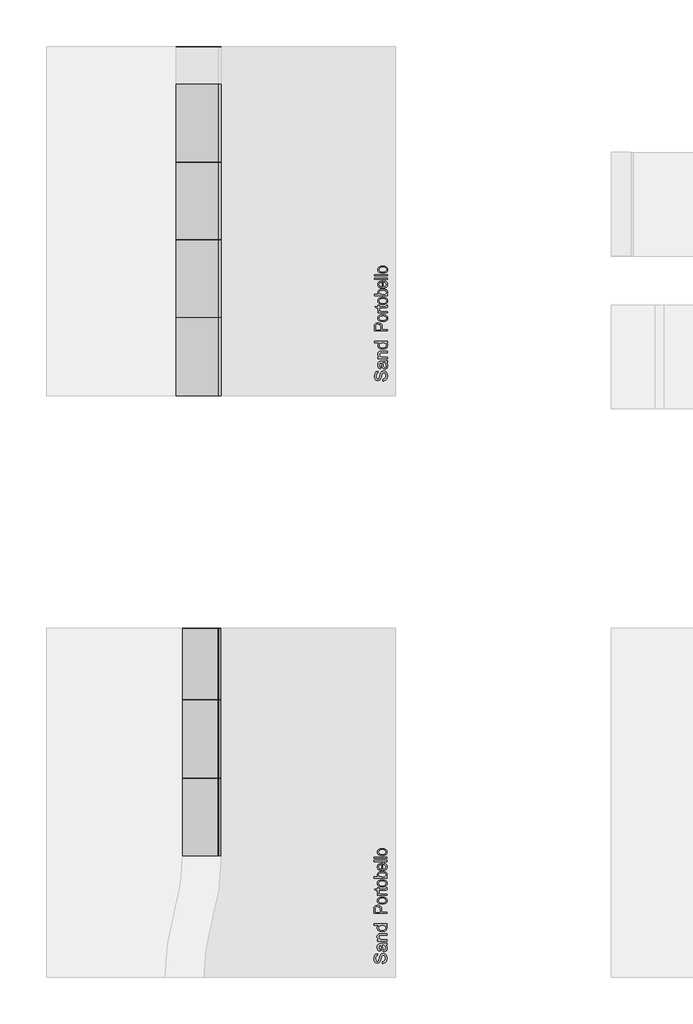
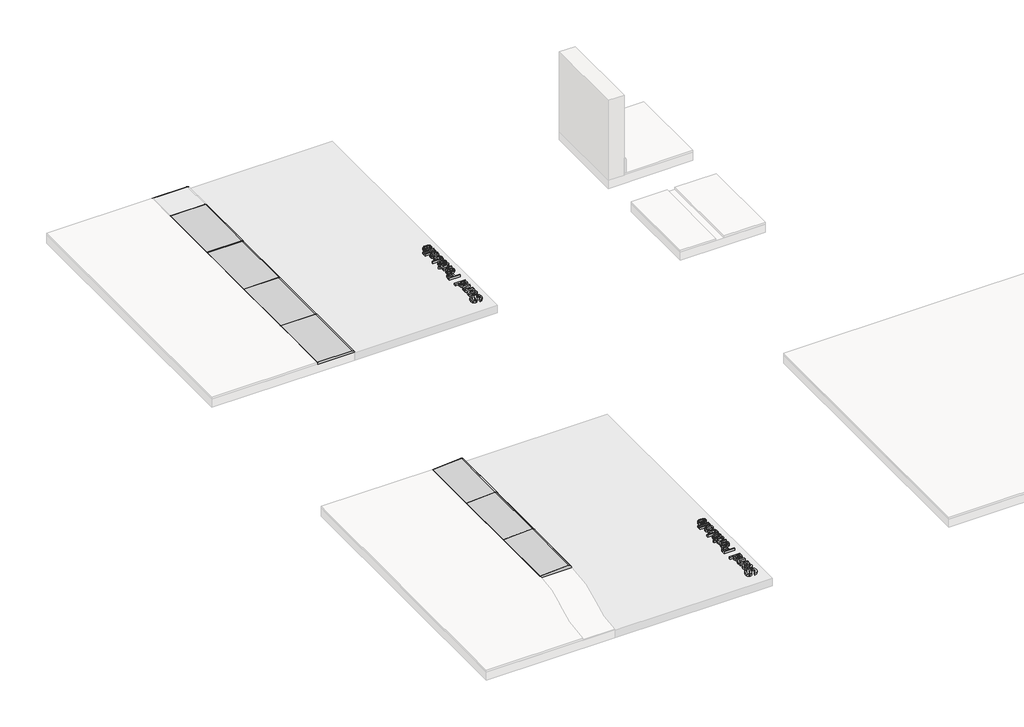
# One storey, part 3 of 6: 13 proxies.
"""IFC4 building model written with IfcOpenShell, lengths in millimetres."""

from ifc_helpers import new_model, si_unit, frame, origin, place, context, project, spatial, polyline, outline, extrude, transform, mapped, element, save
from components import sand_0a74e251, sand_1f769084, sand_3f98117f, sand_cc441fb2, sand_d70d5525

model = new_model("IFC4")

# Units and contexts
model_context = context("Model", 3, world=origin())
ifc_project = project(units=[si_unit("LENGTHUNIT", "METRE", prefix="MILLI")], contexts=[model_context])

# Site, building, storey
site = spatial("IfcSite", under=ifc_project)
building = spatial("IfcBuilding", under=site)
storey = spatial("IfcBuildingStorey", under=building, Name="PORTOBELLO - SHOWROOM", Elevation=0.0)

# Proxies
placement = place(None, origin())
element("IfcBuildingElementProxy", 1, Name="10mm Arial", ObjectType="10mm Arial", at=placement, inside=storey, context=model_context, shape_type="SweptSolid", body=[
    extrude(outline(polyline([(-9817.0956686, -2379.5200678), (-9817.0956686, -2366.963029), (-9804.5263671, -2362.9163271), (-9796.580116, -2353.0325642), (-9793.5512209, -2337.9739278), (-9795.844352, -2324.8528033), (-9802.1473968, -2316.3792547), (-9810.5718945, -2313.5956143), (-9818.407781, -2315.6802789), (-9824.1099519, -2324.2151412), (-9828.9046806, -2342.4988764), (-9835.0973609, -2362.1805631), (-9844.4415635, -2372.8614037), (-9856.9250259, -2376.3808081), (-9871.1375337, -2372.0275378), (-9881.1684494, -2359.3110835), (-9884.589752, -2340.6962546), (-9881.0090339, -2320.8306268), (-9870.4876088, -2307.586875), (-9854.7667849, -2302.6082054), (-9854.7667849, -2315.1652441), (-9862.2593148, -2317.470638), (-9867.6671802, -2322.2776294), (-9872.0327132, -2340.2057453), (-9867.7162311, -2358.1829121), (-9857.2929079, -2363.8237693), (-9848.5863674, -2359.8261183), (-9841.572084, -2339.3228285), (-9835.2690391, -2317.102756), (-9825.0909706, -2304.9503874), (-9810.8907256, -2301.0385755), (-9795.8688775, -2305.5389986), (-9784.905994, -2318.4884448), (-9780.9941821, -2337.4834185), (-9785.2125623, -2359.9119575), (-9797.9167539, -2374.0999397), (-9817.0956686, -2379.5200678)])), frame((0.0, 0.0, -5.0), z_axis=(0.0, 0.0, 1.0), x_axis=(1.0, 0.0, 0.0)), (0.0, 0.0, 1.0), 20.0),
    extrude(outline(polyline([(-9791.981591, -2236.6837518), (-9783.4712542, -2248.8606459), (-9780.9941821, -2262.3128641), (-9782.4841042, -2272.8066981), (-9786.9538704, -2280.5475484), (-9793.7412932, -2285.3208173), (-9802.184185, -2286.9119069), (-9812.1169989, -2284.5084112), (-9819.327486, -2278.1931036), (-9823.4477644, -2269.4007239), (-9825.3362253, -2258.5359423), (-9829.6527073, -2236.7573282), (-9832.4486105, -2236.6837518), (-9841.7192368, -2240.1418426), (-9845.3490058, -2254.0232565), (-9842.9332474, -2266.7274481), (-9834.3615969, -2272.7852383), (-9835.9312267, -2285.342277), (-9848.1939599, -2279.9098862), (-9855.3799215, -2268.9715283), (-9857.9060446, -2252.4045757), (-9855.6742271, -2237.1865239), (-9850.0701581, -2228.5903479), (-9841.5475585, -2224.7398497), (-9830.5601496, -2224.126713), (-9814.9374275, -2224.126713), (-9793.1220252, -2223.4890509), (-9782.563812, -2220.9874534), (-9782.563812, -2233.5444921), (-9791.981591, -2236.6837518)]), holes=[polyline([(-9817.0956686, -2236.6837518), (-9813.2451704, -2256.941787), (-9811.2095566, -2267.7452549), (-9807.8986187, -2272.6380855), (-9803.0671018, -2274.3548681), (-9796.2735476, -2270.6147345), (-9793.5512209, -2259.6395883), (-9796.5555905, -2246.9353967), (-9803.8273913, -2238.743891), (-9813.539476, -2236.7573282), (-9817.0956686, -2236.6837518)])]), frame((0.0, 0.0, -5.0), z_axis=(0.0, 0.0, 1.0), x_axis=(1.0, 0.0, 0.0)), (0.0, 0.0, 1.0), 20.0),
    extrude(outline(polyline([(-9782.563812, -2206.8607847), (-9856.3364147, -2206.8607847), (-9856.3364147, -2194.303746), (-9846.0357189, -2194.303746), (-9854.9384631, -2184.7020259), (-9857.9060446, -2171.5931641), (-9855.5148116, -2159.7351012), (-9849.2362922, -2151.6416973), (-9840.0024541, -2147.8770382), (-9827.8623483, -2147.2148506), (-9782.563812, -2147.2148506), (-9782.563812, -2159.7718894), (-9826.1700911, -2159.7718894), (-9837.2801274, -2161.2188919), (-9843.1539766, -2166.3324516), (-9845.3490058, -2174.953153), (-9840.4193871, -2188.5770496), (-9833.276345, -2192.8720719), (-9821.7064562, -2194.303746), (-9782.563812, -2194.303746), (-9782.563812, -2206.8607847)])), frame((0.0, 0.0, -5.0), z_axis=(0.0, 0.0, 1.0), x_axis=(1.0, 0.0, 0.0)), (0.0, 0.0, 1.0), 20.0),
    extrude(outline(polyline([(-9782.563812, -2084.4296567), (-9794.4096122, -2084.4296567), (-9784.3480396, -2092.7376585), (-9780.9941821, -2104.2217081), (-9785.8502244, -2119.7708537), (-9799.4005446, -2130.7582627), (-9819.3765369, -2134.6578118), (-9839.364792, -2131.064831), (-9853.1235786, -2120.2981513), (-9857.9060446, -2104.270759), (-9854.484742, -2092.6947389), (-9845.5942605, -2084.4296567), (-9883.0201221, -2084.4296567), (-9883.0201221, -2071.872618), (-9782.563812, -2071.872618), (-9782.563812, -2084.4296567)]), holes=[polyline([(-9819.4255879, -2122.1007731), (-9808.0672313, -2120.6844274), (-9799.9891558, -2116.4353903), (-9795.1607046, -2110.2611042), (-9793.5512209, -2103.0690112), (-9795.0871282, -2095.8799838), (-9799.6948502, -2089.8620475), (-9807.460226, -2085.7877544), (-9818.4690947, -2084.4296567), (-9830.5049673, -2085.8122799), (-9838.8497572, -2089.9601494), (-9843.7241937, -2096.1313699), (-9845.3490058, -2103.584046), (-9843.788573, -2110.8497154), (-9839.1072746, -2116.8032723), (-9831.0659873, -2120.7763979), (-9819.4255879, -2122.1007731)])]), frame((0.0, 0.0, -5.0), z_axis=(0.0, 0.0, 1.0), x_axis=(1.0, 0.0, 0.0)), (0.0, 0.0, 1.0), 20.0),
])
element("IfcBuildingElementProxy", 2, Name="10mm Arial", ObjectType="10mm Arial", at=placement, inside=storey, context=model_context, shape_type="SweptSolid", body=[
    extrude(outline(polyline([(-9821.2322995, -6881.391208), (-9821.2322995, -6868.8341692), (-9808.662998, -6864.7874673), (-9800.7167469, -6854.9037043), (-9797.6878518, -6839.845068), (-9799.9809829, -6826.7239435), (-9806.2840278, -6818.2503949), (-9814.7085255, -6815.4667545), (-9822.544412, -6817.5514191), (-9828.2465829, -6826.0862814), (-9833.0413116, -6844.3700165), (-9839.2339918, -6864.0517033), (-9848.5781945, -6874.7325439), (-9861.0616569, -6878.2519483), (-9875.2741646, -6873.898678), (-9885.3050804, -6861.1822237), (-9888.7263829, -6842.5673948), (-9885.1456648, -6822.701767), (-9874.6242398, -6809.4580152), (-9858.9034158, -6804.4793455), (-9858.9034158, -6817.0363843), (-9866.3959458, -6819.3417781), (-9871.8038111, -6824.1487695), (-9876.1693441, -6842.0768854), (-9871.8528621, -6860.0540523), (-9861.4295389, -6865.6949095), (-9852.7229983, -6861.6972585), (-9845.7087149, -6841.1939687), (-9839.4056701, -6818.9738961), (-9829.2276016, -6806.8215276), (-9815.0273565, -6802.9097157), (-9800.0055084, -6807.4101388), (-9789.042625, -6820.359585), (-9785.1308131, -6839.3545587), (-9789.3491933, -6861.7830976), (-9802.0533849, -6875.9710799), (-9821.2322995, -6881.391208)])), frame((0.0, 0.0, -5.0), z_axis=(0.0, 0.0, 1.0), x_axis=(1.0, 0.0, 0.0)), (0.0, 0.0, 1.0), 20.0),
    extrude(outline(polyline([(-9796.118222, -6738.554892), (-9787.6078852, -6750.731786), (-9785.1308131, -6764.1840043), (-9786.6207352, -6774.6778382), (-9791.0905014, -6782.4186886), (-9797.8779242, -6787.1919574), (-9806.320816, -6788.7830471), (-9816.2536299, -6786.3795514), (-9823.464117, -6780.0642438), (-9827.5843953, -6771.2718641), (-9829.4728562, -6760.4070825), (-9833.7893383, -6738.6284684), (-9836.5852415, -6738.554892), (-9845.8558677, -6742.0129828), (-9849.4856368, -6755.8943967), (-9847.0698783, -6768.5985883), (-9838.4982278, -6774.6563785), (-9840.0678577, -6787.2134172), (-9852.3305909, -6781.7810264), (-9859.5165525, -6770.8426684), (-9862.0426755, -6754.2757159), (-9859.8108581, -6739.0576641), (-9854.206789, -6730.4614881), (-9845.6841895, -6726.6109899), (-9834.6967806, -6725.9978532), (-9819.0740585, -6725.9978532), (-9797.2586562, -6725.3601911), (-9786.7004429, -6722.8585935), (-9786.7004429, -6735.4156323), (-9796.118222, -6738.554892)]), holes=[polyline([(-9821.2322995, -6738.554892), (-9817.3818013, -6758.8129272), (-9815.3461876, -6769.6163951), (-9812.0352497, -6774.5092257), (-9807.2037328, -6776.2260083), (-9800.4101786, -6772.4858747), (-9797.6878518, -6761.5107285), (-9800.6922215, -6748.8065369), (-9807.9640222, -6740.6150312), (-9817.6761069, -6738.6284684), (-9821.2322995, -6738.554892)])]), frame((0.0, 0.0, -5.0), z_axis=(0.0, 0.0, 1.0), x_axis=(1.0, 0.0, 0.0)), (0.0, 0.0, 1.0), 20.0),
    extrude(outline(polyline([(-9786.7004429, -6708.7319249), (-9860.4730457, -6708.7319249), (-9860.4730457, -6696.1748862), (-9850.1723498, -6696.1748862), (-9859.0750941, -6686.5731661), (-9862.0426755, -6673.4643043), (-9859.6514426, -6661.6062413), (-9853.3729232, -6653.5128374), (-9844.1390851, -6649.7481784), (-9831.9989793, -6649.0859908), (-9786.7004429, -6649.0859908), (-9786.7004429, -6661.6430295), (-9830.3067221, -6661.6430295), (-9841.4167583, -6663.0900321), (-9847.2906075, -6668.2035918), (-9849.4856368, -6676.8242932), (-9844.556018, -6690.4481898), (-9837.412976, -6694.7432121), (-9825.8430872, -6696.1748862), (-9786.7004429, -6696.1748862), (-9786.7004429, -6708.7319249)])), frame((0.0, 0.0, -5.0), z_axis=(0.0, 0.0, 1.0), x_axis=(1.0, 0.0, 0.0)), (0.0, 0.0, 1.0), 20.0),
    extrude(outline(polyline([(-9786.7004429, -6586.3007969), (-9798.5462432, -6586.3007969), (-9788.4846706, -6594.6087986), (-9785.1308131, -6606.0928483), (-9789.9868554, -6621.6419939), (-9803.5371756, -6632.6294029), (-9823.5131679, -6636.528952), (-9843.501423, -6632.9359712), (-9857.2602096, -6622.1692915), (-9862.0426755, -6606.1418992), (-9858.621373, -6594.5658791), (-9849.7308914, -6586.3007969), (-9887.1567531, -6586.3007969), (-9887.1567531, -6573.7437582), (-9786.7004429, -6573.7437582), (-9786.7004429, -6586.3007969)]), holes=[polyline([(-9823.5622188, -6623.9719132), (-9812.2038622, -6622.5555675), (-9804.1257868, -6618.3065305), (-9799.2973356, -6612.1322444), (-9797.6878518, -6604.9401513), (-9799.2237592, -6597.751124), (-9803.8314812, -6591.7331877), (-9811.5968569, -6587.6588946), (-9822.6057256, -6586.3007969), (-9834.6415983, -6587.6834201), (-9842.9863882, -6591.8312896), (-9847.8608246, -6598.0025101), (-9849.4856368, -6605.4551861), (-9847.925204, -6612.7208555), (-9843.2439056, -6618.6744125), (-9835.2026183, -6622.647538), (-9823.5622188, -6623.9719132)])]), frame((0.0, 0.0, -5.0), z_axis=(0.0, 0.0, 1.0), x_axis=(1.0, 0.0, 0.0)), (0.0, 0.0, 1.0), 20.0),
])
element("IfcBuildingElementProxy", 3, Name="10mm Arial Narrow", ObjectType="10mm Arial Narrow", at=placement, inside=storey, context=model_context, shape_type="SweptSolid", body=[
    extrude(outline(polyline([(-9782.563812, -1992.0923825), (-9883.2824157, -1992.0923825), (-9883.2824157, -1960.7954979), (-9881.404095, -1944.4997963), (-9871.9236518, -1933.0268102), (-9854.904543, -1928.7371318), (-9842.8287174, -1930.5234402), (-9833.2023237, -1935.8823654), (-9826.9010653, -1945.6261542), (-9824.8006458, -1960.5670534), (-9824.8006458, -1982.3454209), (-9782.563812, -1982.3454209), (-9782.563812, -1992.0923825)]), holes=[polyline([(-9836.1721011, -1982.3454209), (-9836.1721011, -1959.374066), (-9840.7029153, -1943.5098706), (-9854.371506, -1938.4840935), (-9864.5372824, -1940.9589079), (-9870.3372323, -1946.9365368), (-9871.9109604, -1959.6025104), (-9871.9109604, -1982.3454209), (-9836.1721011, -1982.3454209)])]), frame((0.0, 0.0, -5.0), z_axis=(0.0, 0.0, 1.0), x_axis=(1.0, 0.0, 0.0)), (0.0, 0.0, 1.0), 20.0),
    extrude(outline(polyline([(-9819.1149182, -1920.6146638), (-9835.7056937, -1918.6601949), (-9847.6577785, -1912.7967883), (-9854.8823331, -1903.9382215), (-9857.290518, -1892.9982724), (-9854.8823331, -1882.1852368), (-9847.6577785, -1873.3012874), (-9835.8960641, -1867.3617326), (-9819.8763995, -1865.381881), (-9802.714513, -1867.3268314), (-9790.5720578, -1873.1616825), (-9783.3475032, -1882.0107307), (-9780.9393183, -1892.9982724), (-9783.3538489, -1903.8589006), (-9790.5974405, -1912.7333315), (-9802.555871, -1918.6443307), (-9819.1149182, -1920.6146638)]), holes=[polyline([(-9819.1403009, -1910.8677021), (-9806.5885495, -1909.5636652), (-9797.7172914, -1905.6515547), (-9792.4440329, -1899.8103579), (-9790.68628, -1892.7190626), (-9792.459897, -1885.9989894), (-9797.7807482, -1880.3069161), (-9806.6678704, -1876.423361), (-9819.1403009, -1875.1288427), (-9831.6539782, -1876.4328796), (-9840.5125449, -1880.3449902), (-9845.7858035, -1886.1861869), (-9847.5435563, -1893.2774822), (-9845.7762849, -1900.045148), (-9840.4744708, -1905.7277028), (-9831.6063856, -1909.5827023), (-9819.1403009, -1910.8677021)])]), frame((0.0, 0.0, -5.0), z_axis=(0.0, 0.0, 1.0), x_axis=(1.0, 0.0, 0.0)), (0.0, 0.0, 1.0), 20.0),
    extrude(outline(polyline([(-9790.68628, -1793.9041623), (-9780.9393183, -1792.2796686), (-9780.9393183, -1799.6406553), (-9783.0587749, -1807.9154196), (-9788.8587247, -1812.2304808), (-9803.5045499, -1813.3980856), (-9845.9190627, -1813.3980856), (-9845.9190627, -1821.5205536), (-9849.1680499, -1821.5205536), (-9844.2945691, -1823.1450472), (-9845.9190627, -1830.7090956), (-9843.5965445, -1836.7882553), (-9837.1112614, -1840.6591189), (-9821.7039548, -1842.6389705), (-9782.563812, -1842.6389705), (-9782.563812, -1852.3859322), (-9855.6660244, -1852.3859322), (-9855.6660244, -1842.6389705), (-9845.9698281, -1842.6389705), (-9855.0568393, -1836.3948232), (-9857.290518, -1829.9983796), (-9855.6660244, -1821.5205536), (-9855.6660244, -1813.3980856), (-9871.9109604, -1813.3980856), (-9880.0334285, -1803.6511239), (-9855.6660244, -1803.6511239), (-9855.6660244, -1793.9041623), (-9845.9190627, -1793.9041623), (-9845.9190627, -1803.6511239), (-9801.2708712, -1803.6511239), (-9793.2753167, -1802.7881117), (-9790.68628, -1798.168458), (-9790.68628, -1793.9041623)])), frame((0.0, 0.0, -5.0), z_axis=(0.0, 0.0, 1.0), x_axis=(1.0, 0.0, 0.0)), (0.0, 0.0, 1.0), 20.0),
    extrude(outline(polyline([(-9819.1149182, -1787.4061878), (-9835.7056937, -1785.4517189), (-9847.6577785, -1779.5883123), (-9854.8823331, -1770.7297456), (-9857.290518, -1759.7897965), (-9854.8823331, -1748.9767609), (-9847.6577785, -1740.0928115), (-9835.8960641, -1734.1532567), (-9819.8763995, -1732.1734051), (-9802.714513, -1734.1183555), (-9790.5720578, -1739.9532065), (-9783.3475032, -1748.8022547), (-9780.9393183, -1759.7897965), (-9783.3538489, -1770.6504246), (-9790.5974405, -1779.5248555), (-9802.555871, -1785.4358548), (-9819.1149182, -1787.4061878)]), holes=[polyline([(-9819.1403009, -1777.6592262), (-9806.5885495, -1776.3551893), (-9797.7172914, -1772.4430787), (-9792.4440329, -1766.601882), (-9790.68628, -1759.5105866), (-9792.459897, -1752.7905135), (-9797.7807482, -1747.0984401), (-9806.6678704, -1743.2148851), (-9819.1403009, -1741.9203668), (-9831.6539782, -1743.2244036), (-9840.5125449, -1747.1365142), (-9845.7858035, -1752.977711), (-9847.5435563, -1760.0690063), (-9845.7762849, -1766.8366721), (-9840.4744708, -1772.5192269), (-9831.6063856, -1776.3742263), (-9819.1403009, -1777.6592262)])]), frame((0.0, 0.0, -5.0), z_axis=(0.0, 0.0, 1.0), x_axis=(1.0, 0.0, 0.0)), (0.0, 0.0, 1.0), 20.0),
    extrude(outline(polyline([(-9782.563812, -1709.4304946), (-9782.563812, -1719.1774562), (-9883.2824157, -1719.1774562), (-9883.2824157, -1709.4304946), (-9847.8735316, -1709.4304946), (-9854.9553084, -1702.0314339), (-9857.290518, -1692.8302005), (-9853.089679, -1679.9484739), (-9840.3602486, -1670.6710924), (-9819.6733378, -1667.1936608), (-9803.2189944, -1669.1259198), (-9791.0162553, -1674.9226968), (-9783.4585526, -1683.2958191), (-9780.9393183, -1692.9571141), (-9783.5537378, -1702.2979523), (-9791.3208478, -1709.4304946), (-9782.563812, -1709.4304946)]), holes=[polyline([(-9819.6733378, -1709.4304946), (-9802.4257846, -1707.3491122), (-9793.6941315, -1701.4603228), (-9790.68628, -1693.0078795), (-9792.4757612, -1687.0651519), (-9797.844205, -1681.8267946), (-9819.2672144, -1676.9406224), (-9840.7029153, -1681.6491156), (-9845.8333961, -1686.8938186), (-9847.5435563, -1693.2109412), (-9845.7540751, -1699.18857), (-9840.3856314, -1704.4808656), (-9819.6733378, -1709.4304946)])]), frame((0.0, 0.0, -5.0), z_axis=(0.0, 0.0, 1.0), x_axis=(1.0, 0.0, 0.0)), (0.0, 0.0, 1.0), 20.0),
    extrude(outline(polyline([(-9805.3067225, -1615.2098653), (-9803.6822289, -1605.4629036), (-9793.7956623, -1609.162434), (-9786.6758114, -1614.9814209), (-9782.3734416, -1622.6850741), (-9780.9393183, -1632.0386038), (-9783.3538489, -1643.6321578), (-9790.5974405, -1652.77628), (-9802.4035747, -1658.7158347), (-9818.5057331, -1660.6956863), (-9835.1726567, -1658.7063162), (-9847.353186, -1652.7382059), (-9854.806185, -1643.7241701), (-9857.290518, -1632.5970234), (-9854.8918516, -1621.9140743), (-9847.6958526, -1613.1665569), (-9835.956348, -1607.3317058), (-9819.927165, -1605.3867555), (-9816.6781777, -1605.4629036), (-9816.6781777, -1650.9487247), (-9797.2350199, -1644.9457131), (-9792.323465, -1639.0156769), (-9790.68628, -1631.9116902), (-9794.3413906, -1621.7332224), (-9805.3067225, -1615.2098653)]), holes=[polyline([(-9826.4251394, -1650.2887741), (-9826.4251394, -1615.2098653), (-9840.6902239, -1619.474161), (-9845.8302232, -1625.2994936), (-9847.5435563, -1632.5208753), (-9841.832446, -1644.7299601), (-9826.4251394, -1650.2887741)])]), frame((0.0, 0.0, -5.0), z_axis=(0.0, 0.0, 1.0), x_axis=(1.0, 0.0, 0.0)), (0.0, 0.0, 1.0), 20.0),
    extrude(outline(polyline([(-9782.563812, -1592.4669548), (-9883.2824157, -1592.4669548), (-9883.2824157, -1582.7199931), (-9782.563812, -1582.7199931), (-9782.563812, -1592.4669548)])), frame((0.0, 0.0, -5.0), z_axis=(0.0, 0.0, 1.0), x_axis=(1.0, 0.0, 0.0)), (0.0, 0.0, 1.0), 20.0),
    extrude(outline(polyline([(-9782.563812, -1566.475057), (-9883.2824157, -1566.475057), (-9883.2824157, -1556.7280954), (-9782.563812, -1556.7280954), (-9782.563812, -1566.475057)])), frame((0.0, 0.0, -5.0), z_axis=(0.0, 0.0, 1.0), x_axis=(1.0, 0.0, 0.0)), (0.0, 0.0, 1.0), 20.0),
    extrude(outline(polyline([(-9819.1149182, -1545.3566401), (-9835.7056937, -1543.4021712), (-9847.6577785, -1537.5387646), (-9854.8823331, -1528.6801979), (-9857.290518, -1517.7402487), (-9854.8823331, -1506.9272132), (-9847.6577785, -1498.0432637), (-9835.8960641, -1492.103709), (-9819.8763995, -1490.1238574), (-9802.714513, -1492.0688077), (-9790.5720578, -1497.9036588), (-9783.3475032, -1506.752707), (-9780.9393183, -1517.7402487), (-9783.3538489, -1528.6008769), (-9790.5974405, -1537.4753078), (-9802.555871, -1543.386307), (-9819.1149182, -1545.3566401)]), holes=[polyline([(-9819.1403009, -1535.6096784), (-9806.5885495, -1534.3056416), (-9797.7172914, -1530.393531), (-9792.4440329, -1524.5523342), (-9790.68628, -1517.4610389), (-9792.459897, -1510.7409657), (-9797.7807482, -1505.0488924), (-9806.6678704, -1501.1653374), (-9819.1403009, -1499.870819), (-9831.6539782, -1501.1748559), (-9840.5125449, -1505.0869665), (-9845.7858035, -1510.9281632), (-9847.5435563, -1518.0194586), (-9845.7762849, -1524.7871243), (-9840.4744708, -1530.4696791), (-9831.6063856, -1534.3246786), (-9819.1403009, -1535.6096784)])]), frame((0.0, 0.0, -5.0), z_axis=(0.0, 0.0, 1.0), x_axis=(1.0, 0.0, 0.0)), (0.0, 0.0, 1.0), 20.0),
])
element("IfcBuildingElementProxy", 4, Name="10mm Arial Narrow", ObjectType="10mm Arial Narrow", at=placement, inside=storey, context=model_context, shape_type="SweptSolid", body=[
    extrude(outline(polyline([(-9786.7004429, -6493.9635227), (-9887.4190467, -6493.9635227), (-9887.4190467, -6462.666638), (-9885.5407259, -6446.3709365), (-9876.0602828, -6434.8979504), (-9859.0411739, -6430.608272), (-9846.9653484, -6432.3945804), (-9837.3389546, -6437.7535056), (-9831.0376962, -6447.4972944), (-9828.9372768, -6462.4381936), (-9828.9372768, -6484.2165611), (-9786.7004429, -6484.2165611), (-9786.7004429, -6493.9635227)]), holes=[polyline([(-9840.308732, -6484.2165611), (-9840.308732, -6461.2452061), (-9844.8395462, -6445.3810107), (-9858.508137, -6440.3552336), (-9868.6739134, -6442.8300481), (-9874.4738632, -6448.8076769), (-9876.0475914, -6461.4736505), (-9876.0475914, -6484.2165611), (-9840.308732, -6484.2165611)])]), frame((0.0, 0.0, -5.0), z_axis=(0.0, 0.0, 1.0), x_axis=(1.0, 0.0, 0.0)), (0.0, 0.0, 1.0), 20.0),
    extrude(outline(polyline([(-9823.2515491, -6422.4858039), (-9839.8423247, -6420.5313351), (-9851.7944095, -6414.6679284), (-9859.0189641, -6405.8093617), (-9861.4271489, -6394.8694126), (-9859.0189641, -6384.056377), (-9851.7944095, -6375.1724276), (-9840.032695, -6369.2328728), (-9824.0130305, -6367.2530212), (-9806.8511439, -6369.1979716), (-9794.7086888, -6375.0328227), (-9787.4841342, -6383.8818708), (-9785.0759493, -6394.8694126), (-9787.4904798, -6405.7300408), (-9794.7340715, -6414.6044717), (-9806.692502, -6420.5154709), (-9823.2515491, -6422.4858039)]), holes=[polyline([(-9823.2769318, -6412.7388423), (-9810.7251804, -6411.4348054), (-9801.8539224, -6407.5226948), (-9796.5806638, -6401.6814981), (-9794.822911, -6394.5902027), (-9796.596528, -6387.8701296), (-9801.9173791, -6382.1780563), (-9810.8045014, -6378.2945012), (-9823.2769318, -6376.9999829), (-9835.7906092, -6378.3040197), (-9844.6491759, -6382.2161303), (-9849.9224344, -6388.0573271), (-9851.6801873, -6395.1486224), (-9849.9129159, -6401.9162882), (-9844.6111018, -6407.598843), (-9835.7430166, -6411.4538425), (-9823.2769318, -6412.7388423)])]), frame((0.0, 0.0, -5.0), z_axis=(0.0, 0.0, 1.0), x_axis=(1.0, 0.0, 0.0)), (0.0, 0.0, 1.0), 20.0),
    extrude(outline(polyline([(-9794.822911, -6295.7753024), (-9785.0759493, -6294.1508088), (-9785.0759493, -6301.5117955), (-9787.1954058, -6309.7865598), (-9792.9953557, -6314.101621), (-9807.6411808, -6315.2692257), (-9850.0556937, -6315.2692257), (-9850.0556937, -6323.3916938), (-9853.3046809, -6323.3916938), (-9848.4312001, -6325.0161874), (-9850.0556937, -6332.5802358), (-9847.7331755, -6338.6593954), (-9841.2478924, -6342.5302591), (-9825.8405858, -6344.5101107), (-9786.7004429, -6344.5101107), (-9786.7004429, -6354.2570724), (-9859.8026553, -6354.2570724), (-9859.8026553, -6344.5101107), (-9850.1064591, -6344.5101107), (-9859.1934702, -6338.2659634), (-9861.4271489, -6331.8695198), (-9859.8026553, -6323.3916938), (-9859.8026553, -6315.2692257), (-9876.0475914, -6315.2692257), (-9884.1700595, -6305.5222641), (-9859.8026553, -6305.5222641), (-9859.8026553, -6295.7753024), (-9850.0556937, -6295.7753024), (-9850.0556937, -6305.5222641), (-9805.4075021, -6305.5222641), (-9797.4119477, -6304.6592519), (-9794.822911, -6300.0395982), (-9794.822911, -6295.7753024)])), frame((0.0, 0.0, -5.0), z_axis=(0.0, 0.0, 1.0), x_axis=(1.0, 0.0, 0.0)), (0.0, 0.0, 1.0), 20.0),
    extrude(outline(polyline([(-9823.2515491, -6289.277328), (-9839.8423247, -6287.3228591), (-9851.7944095, -6281.4594525), (-9859.0189641, -6272.6008858), (-9861.4271489, -6261.6609366), (-9859.0189641, -6250.8479011), (-9851.7944095, -6241.9639516), (-9840.032695, -6236.0243969), (-9824.0130305, -6234.0445453), (-9806.8511439, -6235.9894957), (-9794.7086888, -6241.8243467), (-9787.4841342, -6250.6733949), (-9785.0759493, -6261.6609366), (-9787.4904798, -6272.5215648), (-9794.7340715, -6281.3959957), (-9806.692502, -6287.3069949), (-9823.2515491, -6289.277328)]), holes=[polyline([(-9823.2769318, -6279.5303663), (-9810.7251804, -6278.2263295), (-9801.8539224, -6274.3142189), (-9796.5806638, -6268.4730222), (-9794.822911, -6261.3817268), (-9796.596528, -6254.6616536), (-9801.9173791, -6248.9695803), (-9810.8045014, -6245.0860253), (-9823.2769318, -6243.791507), (-9835.7906092, -6245.0955438), (-9844.6491759, -6249.0076544), (-9849.9224344, -6254.8488511), (-9851.6801873, -6261.9401465), (-9849.9129159, -6268.7078122), (-9844.6111018, -6274.390367), (-9835.7430166, -6278.2453665), (-9823.2769318, -6279.5303663)])]), frame((0.0, 0.0, -5.0), z_axis=(0.0, 0.0, 1.0), x_axis=(1.0, 0.0, 0.0)), (0.0, 0.0, 1.0), 20.0),
    extrude(outline(polyline([(-9786.7004429, -6211.3016348), (-9786.7004429, -6221.0485964), (-9887.4190467, -6221.0485964), (-9887.4190467, -6211.3016348), (-9852.0101625, -6211.3016348), (-9859.0919394, -6203.902574), (-9861.4271489, -6194.7013407), (-9857.22631, -6181.819614), (-9844.4968796, -6172.5422326), (-9823.8099688, -6169.0648009), (-9807.3556253, -6170.9970599), (-9795.1528862, -6176.7938369), (-9787.5951835, -6185.1669593), (-9785.0759493, -6194.8282543), (-9787.6903687, -6204.1690925), (-9795.4574788, -6211.3016348), (-9786.7004429, -6211.3016348)]), holes=[polyline([(-9823.8099688, -6211.3016348), (-9806.5624156, -6209.2202523), (-9797.8307624, -6203.331463), (-9794.822911, -6194.8790197), (-9796.6123922, -6188.9362921), (-9801.9808359, -6183.6979348), (-9823.4038454, -6178.8117626), (-9844.8395462, -6183.5202558), (-9849.970027, -6188.7649588), (-9851.6801873, -6195.0820814), (-9849.890706, -6201.0597102), (-9844.5222623, -6206.3520058), (-9823.8099688, -6211.3016348)])]), frame((0.0, 0.0, -5.0), z_axis=(0.0, 0.0, 1.0), x_axis=(1.0, 0.0, 0.0)), (0.0, 0.0, 1.0), 20.0),
    extrude(outline(polyline([(-9809.4433534, -6117.0810055), (-9807.8188598, -6107.3340438), (-9797.9322933, -6111.0335742), (-9790.8124424, -6116.852561), (-9786.5100726, -6124.5562143), (-9785.0759493, -6133.9097439), (-9787.4904798, -6145.5032979), (-9794.7340715, -6154.6474202), (-9806.5402057, -6160.5869749), (-9822.642364, -6162.5668265), (-9839.3092877, -6160.5774564), (-9851.4898169, -6154.6093461), (-9858.9428159, -6145.5953103), (-9861.4271489, -6134.4681636), (-9859.0284826, -6123.7852144), (-9851.8324836, -6115.0376971), (-9840.092979, -6109.202846), (-9824.0637959, -6107.2578957), (-9820.8148087, -6107.3340438), (-9820.8148087, -6152.8198649), (-9801.3716508, -6146.8168533), (-9796.4600959, -6140.8868171), (-9794.822911, -6133.7828304), (-9798.4780216, -6123.6043626), (-9809.4433534, -6117.0810055)]), holes=[polyline([(-9830.5617704, -6152.1599143), (-9830.5617704, -6117.0810055), (-9844.8268549, -6121.3453012), (-9849.9668542, -6127.1706337), (-9851.6801873, -6134.3920155), (-9845.9690769, -6146.6011003), (-9830.5617704, -6152.1599143)])]), frame((0.0, 0.0, -5.0), z_axis=(0.0, 0.0, 1.0), x_axis=(1.0, 0.0, 0.0)), (0.0, 0.0, 1.0), 20.0),
    extrude(outline(polyline([(-9786.7004429, -6094.3380949), (-9887.4190467, -6094.3380949), (-9887.4190467, -6084.5911333), (-9786.7004429, -6084.5911333), (-9786.7004429, -6094.3380949)])), frame((0.0, 0.0, -5.0), z_axis=(0.0, 0.0, 1.0), x_axis=(1.0, 0.0, 0.0)), (0.0, 0.0, 1.0), 20.0),
    extrude(outline(polyline([(-9786.7004429, -6068.3461972), (-9887.4190467, -6068.3461972), (-9887.4190467, -6058.5992355), (-9786.7004429, -6058.5992355), (-9786.7004429, -6068.3461972)])), frame((0.0, 0.0, -5.0), z_axis=(0.0, 0.0, 1.0), x_axis=(1.0, 0.0, 0.0)), (0.0, 0.0, 1.0), 20.0),
    extrude(outline(polyline([(-9823.2515491, -6047.2277803), (-9839.8423247, -6045.2733114), (-9851.7944095, -6039.4099048), (-9859.0189641, -6030.5513381), (-9861.4271489, -6019.6113889), (-9859.0189641, -6008.7983533), (-9851.7944095, -5999.9144039), (-9840.032695, -5993.9748492), (-9824.0130305, -5991.9949976), (-9806.8511439, -5993.9399479), (-9794.7086888, -5999.774799), (-9787.4841342, -6008.6238472), (-9785.0759493, -6019.6113889), (-9787.4904798, -6030.4720171), (-9794.7340715, -6039.346448), (-9806.692502, -6045.2574472), (-9823.2515491, -6047.2277803)]), holes=[polyline([(-9823.2769318, -6037.4808186), (-9810.7251804, -6036.1767818), (-9801.8539224, -6032.2646712), (-9796.5806638, -6026.4234744), (-9794.822911, -6019.3321791), (-9796.596528, -6012.6121059), (-9801.9173791, -6006.9200326), (-9810.8045014, -6003.0364776), (-9823.2769318, -6001.7419592), (-9835.7906092, -6003.0459961), (-9844.6491759, -6006.9581067), (-9849.9224344, -6012.7993034), (-9851.6801873, -6019.8905988), (-9849.9129159, -6026.6582645), (-9844.6111018, -6032.3408193), (-9835.7430166, -6036.1958188), (-9823.2769318, -6037.4808186)])]), frame((0.0, 0.0, -5.0), z_axis=(0.0, 0.0, 1.0), x_axis=(1.0, 0.0, 0.0)), (0.0, 0.0, 1.0), 20.0),
])
sand_shape = sand_0a74e251(model_context)
element("IfcBuildingElementProxy", 5, Name="PORTOBELLO - BORDA MONOLITH POOL SAND 30X60 EXT BOLD : SAND", ObjectType="PORTOBELLO - BORDA MONOLITH POOL SAND 30X60 EXT BOLD : SAND", at=placement, inside=storey, context=model_context, shape_type="MappedRepresentation", body=[
    mapped(sand_shape, transform((-11069.9813168, -6049.1281175, 20.0), x_axis=(0.0, 1.0, 0.0), y_axis=(-1.0, 0.0, 0.0), z_axis=(0.0, 0.0, 1.0))),
])
sand_2_shape = sand_1f769084(model_context)
element("IfcBuildingElementProxy", 6, Name="BORDA MONOLITH POOL SAND 30X60 EXT BOLD : SAND", ObjectType="BORDA MONOLITH POOL SAND 30X60 EXT BOLD : SAND", at=placement, inside=storey, context=model_context, shape_type="MappedRepresentation", body=[
    mapped(sand_2_shape, transform((-11311.9813168, -4543.1281175, 20.0), x_axis=(-1.0, 0.0, 0.0), y_axis=(0.0, -1.0, 0.0), z_axis=(0.0, 0.0, 1.0))),
])
sand_3_shape = sand_3f98117f(model_context)
element("IfcBuildingElementProxy", 7, Name="BORDA MONOLITH POOL SAND 30X60 EXT BOLD : SAND", ObjectType="BORDA MONOLITH POOL SAND 30X60 EXT BOLD : SAND", at=placement, inside=storey, context=model_context, shape_type="MappedRepresentation", body=[
    mapped(sand_3_shape, transform((-11311.9813168, -5145.1281175, 20.0), x_axis=(-1.0, 0.0, 0.0), y_axis=(0.0, -1.0, 0.0), z_axis=(0.0, 0.0, 1.0))),
])
element("IfcBuildingElementProxy", 8, Name="BORDA MONOLITH POOL SAND 30X60 EXT BOLD : SAND", ObjectType="BORDA MONOLITH POOL SAND 30X60 EXT BOLD : SAND", at=placement, inside=storey, context=model_context, shape_type="MappedRepresentation", body=[
    mapped(sand_3_shape, transform((-11311.9813168, -5747.1281175, 20.0), x_axis=(-1.0, 0.0, 0.0), y_axis=(0.0, -1.0, 0.0), z_axis=(0.0, 0.0, 1.0))),
])
sand_4_shape = sand_cc441fb2(model_context)
element("IfcBuildingElementProxy", 9, Name="PORTOBELLO - BORDA MONOLITH STEP SAND 35X60 EXT BOLD : SAND", ObjectType="PORTOBELLO - BORDA MONOLITH STEP SAND 35X60 EXT BOLD : SAND", at=placement, inside=storey, context=model_context, shape_type="MappedRepresentation", body=[
    mapped(sand_4_shape, transform((-11069.979538, -2493.608239, 19.9997432), x_axis=(0.0, 1.0, 0.0), y_axis=(-1.0, 0.0, 0.0), z_axis=(0.0, 0.0, 1.0))),
])
sand_5_shape = sand_d70d5525(model_context)
element("IfcBuildingElementProxy", 10, Name="BORDA MONOLITH STEP SAND 35X60 EXT BOLD : SAND", ObjectType="BORDA MONOLITH STEP SAND 35X60 EXT BOLD : SAND", at=placement, inside=storey, context=model_context, shape_type="MappedRepresentation", body=[
    mapped(sand_5_shape, transform((-11311.979538, -385.608239, 19.9997432), x_axis=(-1.0, 0.0, 0.0), y_axis=(0.0, -1.0, 0.0), z_axis=(0.0, 0.0, 1.0))),
])
element("IfcBuildingElementProxy", 11, Name="BORDA MONOLITH STEP SAND 35X60 EXT BOLD : SAND", ObjectType="BORDA MONOLITH STEP SAND 35X60 EXT BOLD : SAND", at=placement, inside=storey, context=model_context, shape_type="MappedRepresentation", body=[
    mapped(sand_5_shape, transform((-11311.979538, -987.608239, 19.9997432), x_axis=(-1.0, 0.0, 0.0), y_axis=(0.0, -1.0, 0.0), z_axis=(0.0, 0.0, 1.0))),
])
element("IfcBuildingElementProxy", 12, Name="BORDA MONOLITH STEP SAND 35X60 EXT BOLD : SAND", ObjectType="BORDA MONOLITH STEP SAND 35X60 EXT BOLD : SAND", at=placement, inside=storey, context=model_context, shape_type="MappedRepresentation", body=[
    mapped(sand_5_shape, transform((-11311.979538, -1589.608239, 19.9997432), x_axis=(-1.0, 0.0, 0.0), y_axis=(0.0, -1.0, 0.0), z_axis=(0.0, 0.0, 1.0))),
])
element("IfcBuildingElementProxy", 13, Name="BORDA MONOLITH STEP SAND 35X60 EXT BOLD : SAND", ObjectType="BORDA MONOLITH STEP SAND 35X60 EXT BOLD : SAND", at=placement, inside=storey, context=model_context, shape_type="MappedRepresentation", body=[
    mapped(sand_5_shape, transform((-11311.979538, -2191.608239, 19.9997432), x_axis=(-1.0, 0.0, 0.0), y_axis=(0.0, -1.0, 0.0), z_axis=(0.0, 0.0, 1.0))),
])

save(model, "model.ifc")
